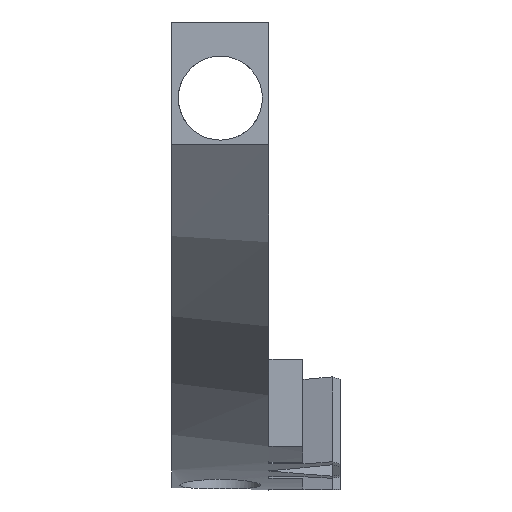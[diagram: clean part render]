
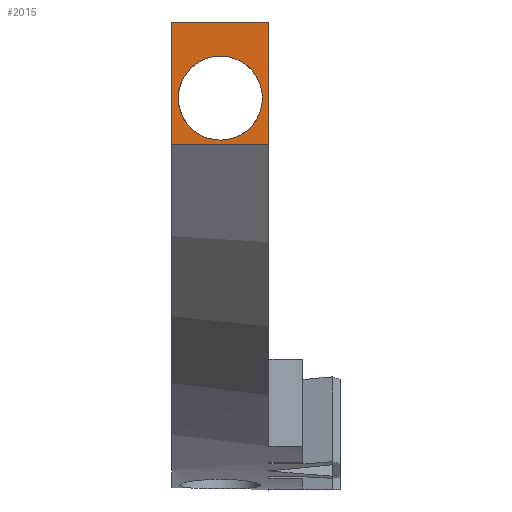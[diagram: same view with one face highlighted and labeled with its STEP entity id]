
A CAD part, left-side view. The second image highlights one B-rep face of the part: STEP entity #2015.
In plain terms, the highlighted planar face has unit normal (-1, 0, 0).
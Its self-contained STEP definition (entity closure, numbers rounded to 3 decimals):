
#92=CIRCLE('',#2091,2.6);
#217=PLANE('',#2238);
#227=FACE_BOUND('',#443,.T.);
#332=FACE_OUTER_BOUND('',#442,.T.);
#442=EDGE_LOOP('',(#1806,#1807,#1808,#1809));
#443=EDGE_LOOP('',(#1810));
#485=LINE('',#3311,#641);
#605=LINE('',#3837,#761);
#606=LINE('',#3839,#762);
#607=LINE('',#3840,#763);
#641=VECTOR('',#2345,10.);
#761=VECTOR('',#2835,10.);
#762=VECTOR('',#2836,10.);
#763=VECTOR('',#2837,10.);
#848=VERTEX_POINT('',#3309);
#849=VERTEX_POINT('',#3310);
#875=VERTEX_POINT('',#3487);
#990=VERTEX_POINT('',#3836);
#991=VERTEX_POINT('',#3838);
#1065=EDGE_CURVE('',#848,#849,#485,.T.);
#1115=EDGE_CURVE('',#875,#875,#92,.T.);
#1289=EDGE_CURVE('',#990,#849,#605,.T.);
#1290=EDGE_CURVE('',#991,#990,#606,.T.);
#1291=EDGE_CURVE('',#991,#848,#607,.T.);
#1806=ORIENTED_EDGE('',*,*,#1065,.T.);
#1807=ORIENTED_EDGE('',*,*,#1289,.F.);
#1808=ORIENTED_EDGE('',*,*,#1290,.F.);
#1809=ORIENTED_EDGE('',*,*,#1291,.T.);
#1810=ORIENTED_EDGE('',*,*,#1115,.T.);
#2015=ADVANCED_FACE('',(#332,#227),#217,.T.);
#2091=AXIS2_PLACEMENT_3D('',#3489,#2454,#2455);
#2238=AXIS2_PLACEMENT_3D('',#3835,#2833,#2834);
#2345=DIRECTION('',(0.,1.,0.));
#2454=DIRECTION('center_axis',(1.,0.,0.));
#2455=DIRECTION('ref_axis',(0.,1.,0.));
#2833=DIRECTION('center_axis',(-1.,0.,0.));
#2834=DIRECTION('ref_axis',(0.,0.,1.));
#2835=DIRECTION('',(0.,0.,1.));
#2836=DIRECTION('',(0.,1.,0.));
#2837=DIRECTION('',(0.,0.,1.));
#3309=CARTESIAN_POINT('',(-37.148,0.,-14.079));
#3310=CARTESIAN_POINT('',(-37.148,6.,-14.079));
#3311=CARTESIAN_POINT('',(-37.148,1.5,-14.079));
#3487=CARTESIAN_POINT('',(-37.148,0.4,-18.781));
#3489=CARTESIAN_POINT('Origin',(-37.148,3.,-18.781));
#3835=CARTESIAN_POINT('Origin',(-37.148,0.,-21.656));
#3836=CARTESIAN_POINT('',(-37.148,6.,-21.656));
#3837=CARTESIAN_POINT('',(-37.148,6.,-21.656));
#3838=CARTESIAN_POINT('',(-37.148,0.,-21.656));
#3839=CARTESIAN_POINT('',(-37.148,0.,-21.656));
#3840=CARTESIAN_POINT('',(-37.148,0.,-21.656));
